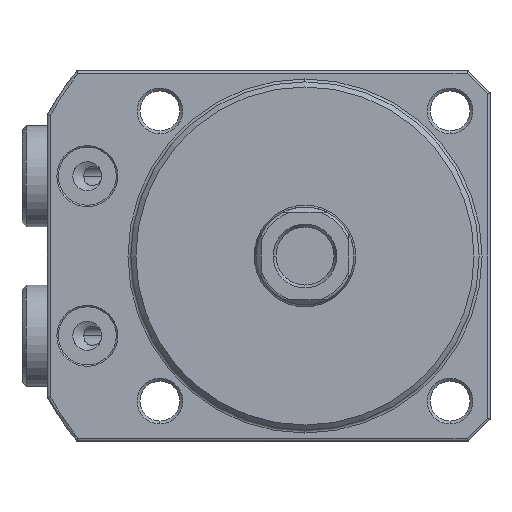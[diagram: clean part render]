
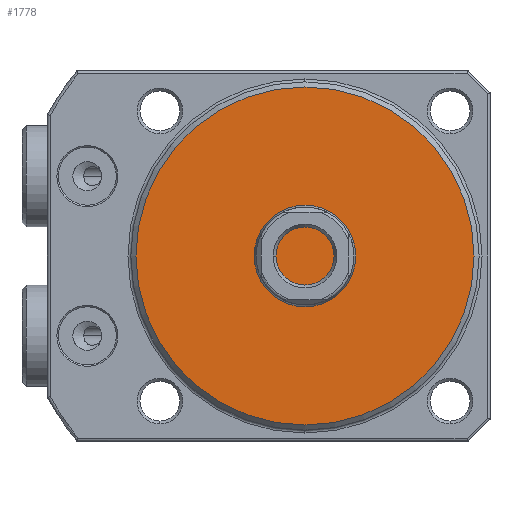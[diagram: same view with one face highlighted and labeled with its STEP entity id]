
A CAD part, front view. The second image highlights one B-rep face of the part: STEP entity #1778.
In plain terms, the highlighted planar face has unit normal (0, -1, 0) as drawn and (-1, 0, 0) by its records, which use the part's own axes.
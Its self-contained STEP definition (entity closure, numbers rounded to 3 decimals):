
#1633=PLANE('',#6965);
#1778=ADVANCED_FACE('',(#2242),#1633,.F.);
#2242=FACE_OUTER_BOUND('',#2569,.T.);
#2569=EDGE_LOOP('',(#3871));
#3871=ORIENTED_EDGE('',*,*,#5823,.T.);
#5260=VERTEX_POINT('',#9637);
#5823=EDGE_CURVE('',#5260,#5260,#6530,.T.);
#6530=CIRCLE('',#6964,23.3);
#6964=AXIS2_PLACEMENT_3D('',#9636,#7918,#7919);
#6965=AXIS2_PLACEMENT_3D('',#9638,#7920,#7921);
#7918=DIRECTION('',(-1.,0.,0.));
#7919=DIRECTION('',(0.,0.,-1.));
#7920=DIRECTION('',(1.,0.,0.));
#7921=DIRECTION('',(0.,0.,1.));
#9636=CARTESIAN_POINT('',(0.,0.,0.));
#9637=CARTESIAN_POINT('',(0.,0.,-23.3));
#9638=CARTESIAN_POINT('',(0.,0.,0.));
